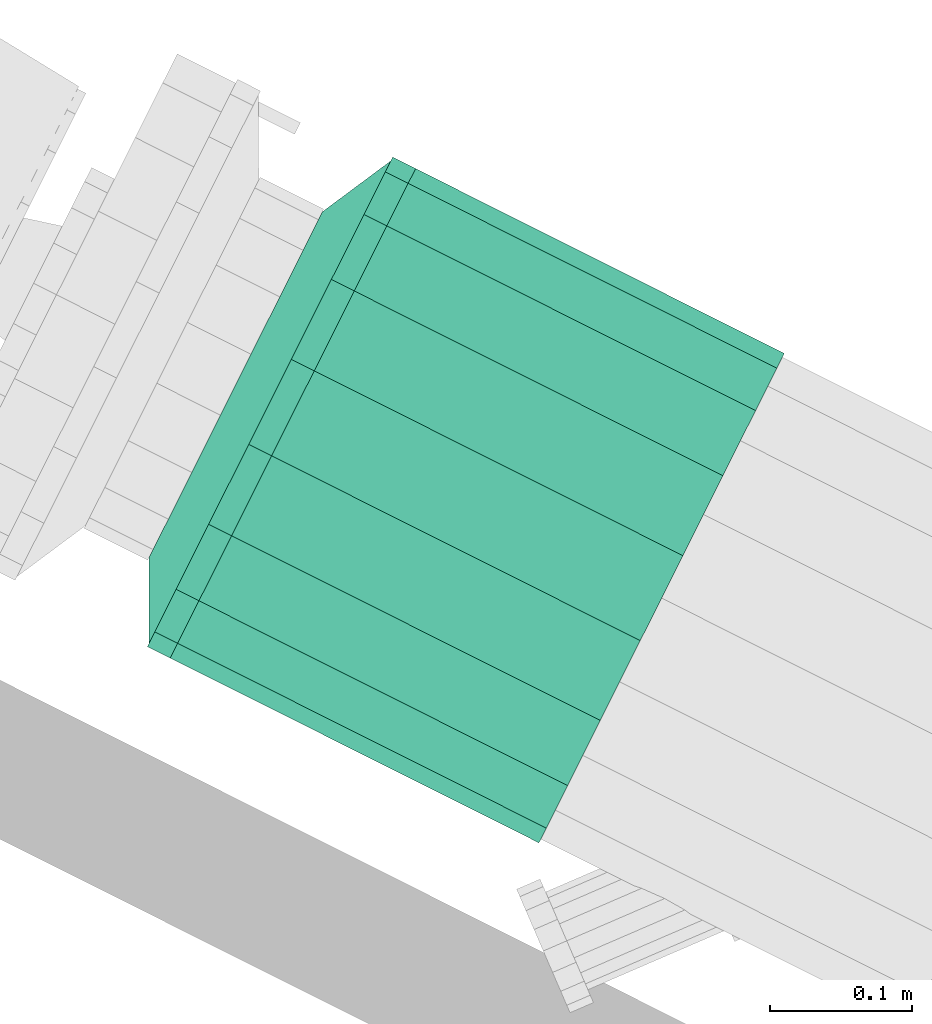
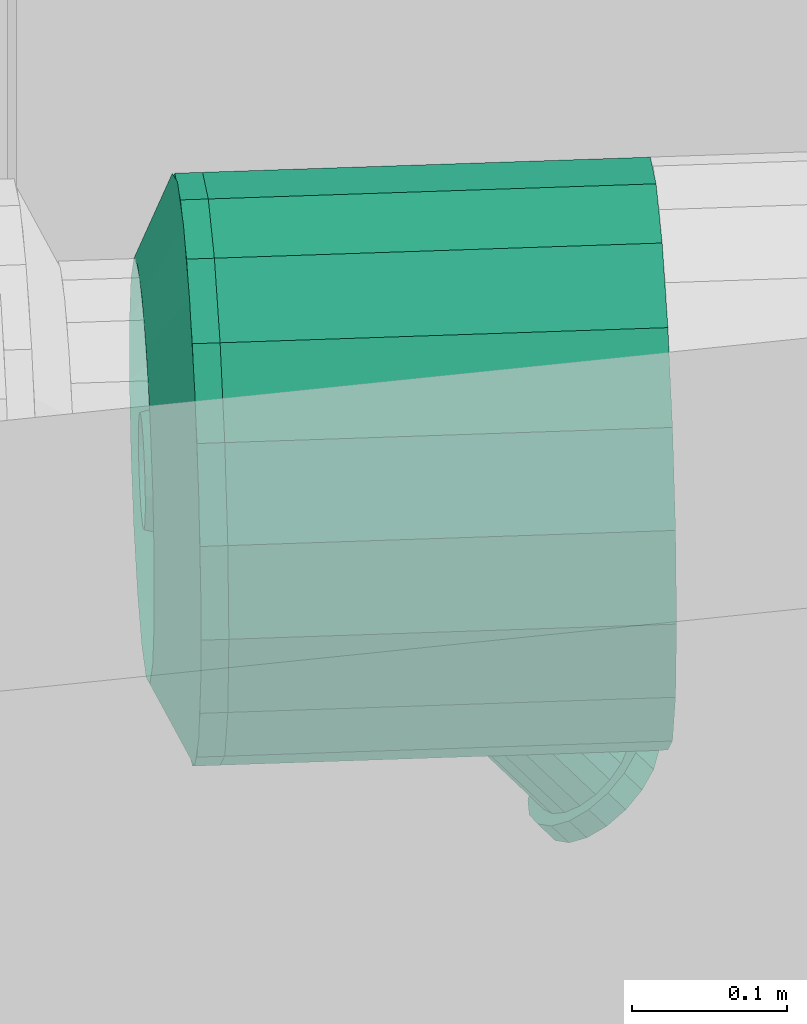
# One storey, part 152 of 206: 1 distribution control element, 1 flow fitting.
"""IFC2X3 building model written with IfcOpenShell, lengths in metres."""

from ifc_helpers import new_model, si_unit, derived_unit, direction, frame, origin, place, context, subcontext, project, spatial, face_set, surface_model, source, transform, mapped, material, type_object, type_shapes, element, save


model = new_model("IFC2X3")

# Units and contexts
model_context = context("Model", 3, precision=5.2338327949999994e-05, world=origin(), true_north=direction((0.0, 1.0)))
body_context = subcontext(model_context, "Body", "Model", "MODEL_VIEW")
ifc_project = project(units=[si_unit("LENGTHUNIT", "METRE"), si_unit("AREAUNIT", "SQUARE_METRE"), si_unit("VOLUMEUNIT", "CUBIC_METRE"), si_unit("MASSUNIT", "GRAM", prefix="KILO"), si_unit("PLANEANGLEUNIT", "RADIAN"), derived_unit("THERMALTRANSMITTANCEUNIT", [(si_unit("MASSUNIT", "GRAM", prefix="KILO"), 1), (si_unit("THERMODYNAMICTEMPERATUREUNIT", "KELVIN"), -1), (si_unit("TIMEUNIT", "SECOND"), -3)])], contexts=[model_context])

# Site, building, storey
site_placement = place(None, frame((0.0, 0.0, 0.0), z_axis=(0.0, 0.0, 1.0), x_axis=(0.8939966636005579, -0.4480736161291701, 0.0)))
site = spatial("IfcSite", under=ifc_project, at=site_placement, Name="Default", CompositionType="ELEMENT")
building_placement = place(site_placement, origin())
building = spatial("IfcBuilding", under=site, at=building_placement, CompositionType="ELEMENT")
storey_placement = place(building_placement, origin())
storey = spatial("IfcBuildingStorey", under=building, at=storey_placement, Name="Erdgeschoss", CompositionType="ELEMENT", Elevation=0.0)

# Distribution control element
ifc_material = material(Name="IfcSurfaceStyle #1741")
distribution_element_type_1 = type_object("IfcDistributionElementType", Name="Zählerpaßstück 334871:Zählerpaßstück 334871", material=ifc_material)
shared_shape_1 = source(origin(), body_context, "Body", "SurfaceModel", [
    surface_model("IfcFaceBasedSurfaceModel", [(29.481749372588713, 10.355158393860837, 2.0686747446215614), (29.46916014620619, 10.35805616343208, 2.0581111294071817), (29.48073032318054, 10.35805616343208, 2.044322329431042), (29.493319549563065, 10.355158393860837, 2.0548859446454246), (29.45808936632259, 10.366399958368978, 2.0488216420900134), (29.46965954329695, 10.366399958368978, 2.0350328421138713), (29.449872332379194, 10.37918339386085, 2.0419267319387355), (29.461442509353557, 10.37918339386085, 2.0281379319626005), (29.44550013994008, 10.394864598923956, 2.0382580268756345), (29.457070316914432, 10.39486459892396, 2.0244692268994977), (29.44550013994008, 10.411552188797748, 2.0382580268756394), (29.457070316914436, 10.411552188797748, 2.0244692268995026), (29.44987233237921, 10.427233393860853, 2.0419267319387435), (29.461442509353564, 10.42723339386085, 2.028137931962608), (29.458089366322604, 10.440016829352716, 2.0488216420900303), (29.469659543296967, 10.440016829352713, 2.0350328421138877), (29.469160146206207, 10.448360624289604, 2.0581111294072), (29.48073032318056, 10.448360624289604, 2.044322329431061), (29.481749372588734, 10.451258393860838, 2.068674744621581), (29.493319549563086, 10.451258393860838, 2.0548859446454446), (29.49433859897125, 10.448360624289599, 2.0792383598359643), (29.50590877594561, 10.448360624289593, 2.065449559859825), (29.50540937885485, 10.440016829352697, 2.088527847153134), (29.516979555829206, 10.440016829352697, 2.0747390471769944), (29.513626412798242, 10.427233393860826, 2.0954227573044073), (29.525196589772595, 10.427233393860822, 2.081633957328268), (29.517998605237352, 10.411552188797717, 2.0990914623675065), (29.529568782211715, 10.411552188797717, 2.0853026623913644), (29.51799860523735, 10.394864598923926, 2.099091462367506), (29.529568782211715, 10.394864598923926, 2.085302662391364), (29.513626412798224, 10.379183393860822, 2.095422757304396), (29.525196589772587, 10.379183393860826, 2.0816339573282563), (29.50540937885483, 10.36639995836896, 2.0885278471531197), (29.516979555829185, 10.36639995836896, 2.07473904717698), (29.49433859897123, 10.35805616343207, 2.079238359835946), (29.50590877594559, 10.35805616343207, 2.0654495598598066), (29.481749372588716, 10.403208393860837, 2.0686747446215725), (29.493319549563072, 10.403208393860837, 2.0548859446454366), (29.51089736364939, 10.403208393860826, 2.0931328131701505), (29.509139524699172, 10.416222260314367, 2.0916578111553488), (29.35257453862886, 10.416222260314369, 2.278244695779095), (29.357495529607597, 10.403208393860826, 2.2759499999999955), (29.504078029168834, 10.427666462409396, 2.0874107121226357), (29.338405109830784, 10.427666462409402, 2.2848520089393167), (29.49632336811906, 10.436160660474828, 2.0809037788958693), (29.316696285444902, 10.436160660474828, 2.2949749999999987), (29.48681086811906, 10.440680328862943, 2.072921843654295), (29.29006647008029, 10.440680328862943, 2.3073926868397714), (29.47668787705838, 10.440680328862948, 2.0644276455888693), (29.272816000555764, 10.440680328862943, 2.3073926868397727), (29.467175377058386, 10.436160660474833, 2.0564457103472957), (29.26702553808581, 10.436160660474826, 2.2949749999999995), (29.459420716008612, 10.427666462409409, 2.0499387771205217), (29.26230510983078, 10.427666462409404, 2.284852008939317), (29.45435922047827, 10.41622226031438, 2.045691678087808), (29.259224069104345, 10.416222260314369, 2.2782446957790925), (29.45260138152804, 10.403208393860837, 2.044216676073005), (29.258154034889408, 10.403208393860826, 2.2759499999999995), (29.454359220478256, 10.390194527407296, 2.045691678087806), (29.25922406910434, 10.390194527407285, 2.2782446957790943), (29.4594207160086, 10.378750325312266, 2.04993877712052), (29.26230510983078, 10.378750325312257, 2.2848520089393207), (29.467175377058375, 10.370256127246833, 2.056445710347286), (29.26702553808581, 10.370256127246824, 2.294974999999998), (29.476687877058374, 10.365736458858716, 2.06442764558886), (29.272816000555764, 10.365736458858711, 2.3073926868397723), (29.486810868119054, 10.365736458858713, 2.0729218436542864), (29.29006647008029, 10.365736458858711, 2.3073926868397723), (29.496323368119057, 10.370256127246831, 2.080903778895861), (29.31669628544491, 10.37025612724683, 2.294974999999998), (29.50407802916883, 10.378750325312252, 2.0874107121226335), (29.338405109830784, 10.378750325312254, 2.28485200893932), (29.509139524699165, 10.390194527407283, 2.0916578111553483), (29.35257453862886, 10.390194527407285, 2.278244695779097), (29.240127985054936, 10.31070839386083, 2.313999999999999), (29.240127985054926, 10.31628682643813, 2.2823631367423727), (29.25812798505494, 10.31628682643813, 2.282363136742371), (29.25812798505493, 10.31070839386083, 2.313999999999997), (29.240127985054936, 10.332349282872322, 2.254542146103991), (29.25812798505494, 10.332349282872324, 2.254542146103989), (29.240127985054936, 10.356958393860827, 2.2338926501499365), (29.25812798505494, 10.356958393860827, 2.2338926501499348), (29.24012798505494, 10.387145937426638, 2.22290528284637), (29.25812798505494, 10.387145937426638, 2.222905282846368), (29.24012798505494, 10.41927085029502, 2.2229052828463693), (29.25812798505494, 10.41927085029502, 2.222905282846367), (29.240127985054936, 10.449458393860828, 2.233892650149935), (29.25812798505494, 10.449458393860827, 2.233892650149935), (29.240127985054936, 10.474067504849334, 2.254542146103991), (29.258127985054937, 10.474067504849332, 2.254542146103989), (29.240127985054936, 10.490129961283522, 2.282363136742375), (29.258127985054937, 10.490129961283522, 2.2823631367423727), (29.240127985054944, 10.495708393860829, 2.314), (29.25812798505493, 10.495708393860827, 2.313999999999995), (29.24012798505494, 10.490129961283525, 2.345636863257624), (29.25812798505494, 10.49012996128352, 2.3456368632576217), (29.240127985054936, 10.474067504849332, 2.373457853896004), (29.25812798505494, 10.474067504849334, 2.3734578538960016), (29.240127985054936, 10.449458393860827, 2.3941073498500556), (29.25812798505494, 10.449458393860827, 2.3941073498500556), (29.240127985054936, 10.419270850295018, 2.40509471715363), (29.25812798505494, 10.419270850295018, 2.4050947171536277), (29.240127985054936, 10.387145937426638, 2.40509471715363), (29.25812798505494, 10.387145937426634, 2.4050947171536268), (29.240127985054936, 10.356958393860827, 2.3941073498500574), (29.25812798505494, 10.356958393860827, 2.394107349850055), (29.24012798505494, 10.332349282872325, 2.3734578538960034), (29.258127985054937, 10.332349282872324, 2.3734578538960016), (29.24012798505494, 10.316286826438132, 2.3456368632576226), (29.258127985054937, 10.31628682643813, 2.3456368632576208), (29.240127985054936, 10.403208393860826, 2.3139999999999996), (29.25812798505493, 10.403208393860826, 2.3139999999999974), (29.25812798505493, 10.365158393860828, 2.313999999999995), (29.25812798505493, 10.367453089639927, 2.300986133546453), (29.512127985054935, 10.367453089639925, 2.300986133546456), (29.512127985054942, 10.365158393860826, 2.3139999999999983), (29.25812798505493, 10.37406040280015, 2.2895419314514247), (29.512127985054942, 10.374060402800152, 2.289541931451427), (29.25812798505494, 10.384183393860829, 2.2810477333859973), (29.512127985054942, 10.38418339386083, 2.2810477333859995), (29.25812798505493, 10.3966010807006, 2.2765280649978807), (29.512127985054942, 10.396601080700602, 2.2765280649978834), (29.258127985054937, 10.409815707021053, 2.276528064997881), (29.51212798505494, 10.409815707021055, 2.2765280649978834), (29.25812798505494, 10.422233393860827, 2.281047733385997), (29.512127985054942, 10.422233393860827, 2.281047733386), (29.25812798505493, 10.432356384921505, 2.2895419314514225), (29.512127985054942, 10.432356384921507, 2.2895419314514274), (29.258127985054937, 10.438963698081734, 2.300986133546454), (29.51212798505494, 10.438963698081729, 2.3009861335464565), (29.258127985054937, 10.441258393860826, 2.313999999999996), (29.51212798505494, 10.441258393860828, 2.313999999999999), (29.258127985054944, 10.438963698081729, 2.3270138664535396), (29.51212798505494, 10.438963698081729, 2.327013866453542), (29.25812798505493, 10.432356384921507, 2.338458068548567), (29.512127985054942, 10.432356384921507, 2.3384580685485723), (29.25812798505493, 10.422233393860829, 2.3469522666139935), (29.512127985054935, 10.422233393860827, 2.346952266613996), (29.25812798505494, 10.40981570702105, 2.351471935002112), (29.512127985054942, 10.409815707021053, 2.3514719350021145), (29.25812798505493, 10.396601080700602, 2.3514719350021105), (29.512127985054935, 10.3966010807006, 2.3514719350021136), (29.258127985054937, 10.384183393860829, 2.346952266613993), (29.51212798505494, 10.384183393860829, 2.346952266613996), (29.25812798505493, 10.37406040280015, 2.3384580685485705), (29.512127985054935, 10.37406040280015, 2.338458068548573), (29.25812798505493, 10.367453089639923, 2.3270138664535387), (29.512127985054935, 10.367453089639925, 2.3270138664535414), (29.51212798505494, 10.310708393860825, 2.3139999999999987), (29.51212798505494, 10.316286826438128, 2.2823631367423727), (29.53012798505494, 10.31628682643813, 2.2823631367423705), (29.53012798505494, 10.310708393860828, 2.3139999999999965), (29.51212798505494, 10.332349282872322, 2.254542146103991), (29.53012798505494, 10.332349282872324, 2.254542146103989), (29.51212798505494, 10.356958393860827, 2.233892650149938), (29.53012798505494, 10.356958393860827, 2.2338926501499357), (29.51212798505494, 10.387145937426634, 2.2229052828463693), (29.53012798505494, 10.387145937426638, 2.222905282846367), (29.51212798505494, 10.41927085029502, 2.22290528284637), (29.53012798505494, 10.41927085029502, 2.2229052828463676), (29.51212798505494, 10.449458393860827, 2.233892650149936), (29.53012798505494, 10.449458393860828, 2.2338926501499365), (29.51212798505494, 10.474067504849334, 2.2545421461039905), (29.53012798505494, 10.474067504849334, 2.2545421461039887), (29.51212798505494, 10.490129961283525, 2.282363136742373), (29.53012798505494, 10.490129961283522, 2.282363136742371), (29.51212798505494, 10.495708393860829, 2.314), (29.53012798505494, 10.495708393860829, 2.313999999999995), (29.51212798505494, 10.49012996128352, 2.345636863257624), (29.53012798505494, 10.490129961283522, 2.3456368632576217), (29.51212798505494, 10.474067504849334, 2.373457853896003), (29.530127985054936, 10.474067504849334, 2.3734578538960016), (29.512127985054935, 10.449458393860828, 2.394107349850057), (29.53012798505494, 10.449458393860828, 2.394107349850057), (29.512127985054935, 10.41927085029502, 2.4050947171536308), (29.53012798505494, 10.419270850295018, 2.405094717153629), (29.51212798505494, 10.387145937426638, 2.4050947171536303), (29.53012798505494, 10.387145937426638, 2.405094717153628), (29.51212798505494, 10.356958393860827, 2.394107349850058), (29.53012798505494, 10.356958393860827, 2.3941073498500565), (29.51212798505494, 10.332349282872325, 2.3734578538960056), (29.530127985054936, 10.332349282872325, 2.373457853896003), (29.51212798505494, 10.316286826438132, 2.3456368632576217), (29.53012798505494, 10.316286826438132, 2.3456368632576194), (29.51212798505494, 10.403208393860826, 2.314), (29.530127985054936, 10.403208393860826, 2.313999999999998), (29.240127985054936, 10.210708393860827, 2.313999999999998), (29.240127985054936, 10.222317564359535, 2.248161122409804), (29.53012798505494, 10.222317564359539, 2.248161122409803), (29.53012798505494, 10.210708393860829, 2.313999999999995), (29.240127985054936, 10.255744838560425, 2.190263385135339), (29.53012798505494, 10.255744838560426, 2.1902633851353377), (29.240127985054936, 10.306958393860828, 2.147290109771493), (29.53012798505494, 10.306958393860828, 2.1472901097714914), (29.240127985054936, 10.369781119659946, 2.1244245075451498), (29.53012798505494, 10.369781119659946, 2.124424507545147), (29.24012798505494, 10.436635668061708, 2.1244245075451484), (29.530127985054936, 10.436635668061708, 2.1244245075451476), (29.240127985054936, 10.499458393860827, 2.147290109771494), (29.53012798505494, 10.499458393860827, 2.1472901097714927), (29.240127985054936, 10.55067194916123, 2.1902633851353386), (29.53012798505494, 10.55067194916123, 2.1902633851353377), (29.24012798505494, 10.584099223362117, 2.248161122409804), (29.53012798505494, 10.584099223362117, 2.2481611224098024), (29.24012798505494, 10.595708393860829, 2.3139999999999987), (29.53012798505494, 10.595708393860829, 2.3139999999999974), (29.24012798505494, 10.584099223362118, 2.3798388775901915), (29.53012798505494, 10.58409922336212, 2.3798388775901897), (29.24012798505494, 10.55067194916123, 2.437736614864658), (29.53012798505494, 10.55067194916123, 2.4377366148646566), (29.24012798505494, 10.499458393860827, 2.4807098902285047), (29.53012798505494, 10.499458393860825, 2.4807098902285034), (29.24012798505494, 10.43663566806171, 2.5035754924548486), (29.53012798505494, 10.43663566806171, 2.5035754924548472), (29.24012798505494, 10.369781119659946, 2.5035754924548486), (29.53012798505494, 10.369781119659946, 2.503575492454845), (29.240127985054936, 10.306958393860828, 2.4807098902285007), (29.53012798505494, 10.306958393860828, 2.4807098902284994), (29.240127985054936, 10.255744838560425, 2.4377366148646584), (29.53012798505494, 10.255744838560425, 2.437736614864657), (29.24012798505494, 10.22231756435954, 2.379838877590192), (29.530127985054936, 10.22231756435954, 2.37983887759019)], [face_set([[[0, 1, 2, 3]], [[1, 4, 5, 2]], [[4, 6, 7, 5]], [[6, 8, 9, 7]], [[8, 10, 11, 9]], [[10, 12, 13, 11]], [[12, 14, 15, 13]], [[14, 16, 17, 15]], [[16, 18, 19, 17]], [[18, 20, 21, 19]], [[20, 22, 23, 21]], [[22, 24, 25, 23]], [[24, 26, 27, 25]], [[26, 28, 29, 27]], [[28, 30, 31, 29]], [[30, 32, 33, 31]], [[32, 34, 35, 33]], [[34, 0, 3, 35]], [[36, 1, 0]], [[36, 4, 1]], [[36, 6, 4]], [[36, 8, 6]], [[36, 10, 8]], [[36, 12, 10]], [[36, 14, 12]], [[36, 16, 14]], [[36, 18, 16]], [[36, 20, 18]], [[36, 22, 20]], [[36, 24, 22]], [[36, 26, 24]], [[36, 28, 26]], [[36, 30, 28]], [[36, 32, 30]], [[36, 34, 32]], [[36, 0, 34]], [[37, 35, 3]], [[37, 33, 35]], [[37, 31, 33]], [[37, 29, 31]], [[37, 27, 29]], [[37, 25, 27]], [[37, 23, 25]], [[37, 21, 23]], [[37, 19, 21]], [[37, 17, 19]], [[37, 15, 17]], [[37, 13, 15]], [[37, 11, 13]], [[37, 9, 11]], [[37, 7, 9]], [[37, 5, 7]], [[37, 2, 5]], [[37, 3, 2]], [[38, 39, 40, 41]], [[39, 42, 43, 40]], [[42, 44, 45, 43]], [[44, 46, 47, 45]], [[46, 48, 49, 47]], [[48, 50, 51, 49]], [[50, 52, 53, 51]], [[52, 54, 55, 53]], [[54, 56, 57, 55]], [[56, 58, 59, 57]], [[58, 60, 61, 59]], [[60, 62, 63, 61]], [[62, 64, 65, 63]], [[64, 66, 67, 65]], [[66, 68, 69, 67]], [[68, 70, 71, 69]], [[70, 72, 73, 71]], [[72, 38, 41, 73]], [[74, 75, 76, 77]], [[75, 78, 79, 76]], [[78, 80, 81, 79]], [[80, 82, 83, 81]], [[82, 84, 85, 83]], [[84, 86, 87, 85]], [[86, 88, 89, 87]], [[88, 90, 91, 89]], [[90, 92, 93, 91]], [[92, 94, 95, 93]], [[94, 96, 97, 95]], [[96, 98, 99, 97]], [[98, 100, 101, 99]], [[100, 102, 103, 101]], [[102, 104, 105, 103]], [[104, 106, 107, 105]], [[106, 108, 109, 107]], [[108, 74, 77, 109]], [[110, 75, 74]], [[110, 78, 75]], [[110, 80, 78]], [[110, 82, 80]], [[110, 84, 82]], [[110, 86, 84]], [[110, 88, 86]], [[110, 90, 88]], [[110, 92, 90]], [[110, 94, 92]], [[110, 96, 94]], [[110, 98, 96]], [[110, 100, 98]], [[110, 102, 100]], [[110, 104, 102]], [[110, 106, 104]], [[110, 108, 106]], [[110, 74, 108]], [[111, 109, 77]], [[111, 107, 109]], [[111, 105, 107]], [[111, 103, 105]], [[111, 101, 103]], [[111, 99, 101]], [[111, 97, 99]], [[111, 95, 97]], [[111, 93, 95]], [[111, 91, 93]], [[111, 89, 91]], [[111, 87, 89]], [[111, 85, 87]], [[111, 83, 85]], [[111, 81, 83]], [[111, 79, 81]], [[111, 76, 79]], [[111, 77, 76]], [[112, 113, 114, 115]], [[113, 116, 117, 114]], [[116, 118, 119, 117]], [[118, 120, 121, 119]], [[120, 122, 123, 121]], [[122, 124, 125, 123]], [[124, 126, 127, 125]], [[126, 128, 129, 127]], [[128, 130, 131, 129]], [[130, 132, 133, 131]], [[132, 134, 135, 133]], [[134, 136, 137, 135]], [[136, 138, 139, 137]], [[138, 140, 141, 139]], [[140, 142, 143, 141]], [[142, 144, 145, 143]], [[144, 146, 147, 145]], [[146, 112, 115, 147]], [[148, 149, 150, 151]], [[149, 152, 153, 150]], [[152, 154, 155, 153]], [[154, 156, 157, 155]], [[156, 158, 159, 157]], [[158, 160, 161, 159]], [[160, 162, 163, 161]], [[162, 164, 165, 163]], [[164, 166, 167, 165]], [[166, 168, 169, 167]], [[168, 170, 171, 169]], [[170, 172, 173, 171]], [[172, 174, 175, 173]], [[174, 176, 177, 175]], [[176, 178, 179, 177]], [[178, 180, 181, 179]], [[180, 182, 183, 181]], [[182, 148, 151, 183]], [[184, 149, 148]], [[184, 152, 149]], [[184, 154, 152]], [[184, 156, 154]], [[184, 158, 156]], [[184, 160, 158]], [[184, 162, 160]], [[184, 164, 162]], [[184, 166, 164]], [[184, 168, 166]], [[184, 170, 168]], [[184, 172, 170]], [[184, 174, 172]], [[184, 176, 174]], [[184, 178, 176]], [[184, 180, 178]], [[184, 182, 180]], [[184, 148, 182]], [[185, 183, 151]], [[185, 181, 183]], [[185, 179, 181]], [[185, 177, 179]], [[185, 175, 177]], [[185, 173, 175]], [[185, 171, 173]], [[185, 169, 171]], [[185, 167, 169]], [[185, 165, 167]], [[185, 163, 165]], [[185, 161, 163]], [[185, 159, 161]], [[185, 157, 159]], [[185, 155, 157]], [[185, 153, 155]], [[185, 150, 153]], [[185, 151, 150]], [[186, 187, 188, 189]], [[187, 190, 191, 188]], [[190, 192, 193, 191]], [[192, 194, 195, 193]], [[194, 196, 197, 195]], [[196, 198, 199, 197]], [[198, 200, 201, 199]], [[200, 202, 203, 201]], [[202, 204, 205, 203]], [[204, 206, 207, 205]], [[206, 208, 209, 207]], [[208, 210, 211, 209]], [[210, 212, 213, 211]], [[212, 214, 215, 213]], [[214, 216, 217, 215]], [[216, 218, 219, 217]], [[218, 220, 221, 219]], [[220, 186, 189, 221]]])]),
])
type_shapes(distribution_element_type_1, [shared_shape_1])
distribution_control_element_placement = place(storey_placement, origin())
element("IfcDistributionControlElement", 1, at=distribution_control_element_placement, inside=storey, type_object=distribution_element_type_1, material=ifc_material, Name="Zählerpaßstück", ObjectType="Zählerpaßstück", context=body_context, shape_type="MappedRepresentation", body=[
    mapped(shared_shape_1, transform((0.0, 0.0, 0.0), scale=1.0)),
])

# Flow fitting
distribution_element_type_2 = type_object("IfcDistributionElementType", Name="Flansch 336047:Flansch 336047", material=ifc_material)
shared_shape_2 = source(origin(), body_context, "Body", "SurfaceModel", [
    surface_model("IfcFaceBasedSurfaceModel", [(29.24012798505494, 10.310708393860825, 2.314), (29.24012798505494, 10.31628682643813, 2.3456368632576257), (29.22212798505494, 10.31628682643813, 2.3456368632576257), (29.22212798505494, 10.310708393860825, 2.314), (29.24012798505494, 10.332349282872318, 2.373457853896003), (29.22212798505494, 10.332349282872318, 2.373457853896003), (29.24012798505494, 10.356958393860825, 2.3941073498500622), (29.22212798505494, 10.356958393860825, 2.3941073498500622), (29.24012798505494, 10.387145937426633, 2.4050947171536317), (29.22212798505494, 10.387145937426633, 2.4050947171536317), (29.24012798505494, 10.419270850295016, 2.4050947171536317), (29.22212798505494, 10.419270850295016, 2.4050947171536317), (29.24012798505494, 10.449458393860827, 2.394107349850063), (29.22212798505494, 10.449458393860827, 2.394107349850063), (29.24012798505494, 10.474067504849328, 2.3734578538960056), (29.22212798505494, 10.474067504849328, 2.3734578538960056), (29.24012798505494, 10.490129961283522, 2.3456368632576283), (29.22212798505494, 10.490129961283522, 2.3456368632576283), (29.24012798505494, 10.495708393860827, 2.314000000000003), (29.22212798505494, 10.495708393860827, 2.314000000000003), (29.24012798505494, 10.490129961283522, 2.2823631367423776), (29.22212798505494, 10.490129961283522, 2.2823631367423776), (29.24012798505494, 10.474067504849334, 2.254542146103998), (29.22212798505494, 10.474067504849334, 2.254542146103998), (29.24012798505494, 10.449458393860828, 2.23389265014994), (29.22212798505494, 10.449458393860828, 2.23389265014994), (29.24012798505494, 10.41927085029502, 2.2229052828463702), (29.22212798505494, 10.41927085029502, 2.2229052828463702), (29.24012798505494, 10.387145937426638, 2.222905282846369), (29.22212798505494, 10.387145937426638, 2.222905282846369), (29.24012798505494, 10.356958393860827, 2.23389265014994), (29.22212798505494, 10.356958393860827, 2.23389265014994), (29.24012798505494, 10.332349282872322, 2.2545421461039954), (29.22212798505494, 10.332349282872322, 2.2545421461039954), (29.24012798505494, 10.316286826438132, 2.2823631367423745), (29.22212798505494, 10.316286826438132, 2.2823631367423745), (29.222127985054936, 10.403208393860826, 2.3140000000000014), (29.22212798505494, 10.403208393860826, 2.3590000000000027), (29.22212798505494, 10.418599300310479, 2.3562861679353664), (29.19512798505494, 10.416222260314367, 2.3497553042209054), (29.19512798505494, 10.403208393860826, 2.3520500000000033), (29.22212798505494, 10.432133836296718, 2.348471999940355), (29.19512798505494, 10.4276664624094, 2.343147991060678), (29.22212798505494, 10.442179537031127, 2.336500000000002), (29.19512798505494, 10.436160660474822, 2.3330250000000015), (29.22212798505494, 10.447524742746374, 2.321814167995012), (29.19512798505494, 10.44068032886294, 2.3206073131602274), (29.22212798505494, 10.447524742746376, 2.3061858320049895), (29.19512798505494, 10.44068032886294, 2.307392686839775), (29.22212798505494, 10.442179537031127, 2.291499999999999), (29.19512798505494, 10.436160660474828, 2.2949750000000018), (29.22212798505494, 10.43213383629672, 2.2795280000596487), (29.19512798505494, 10.427666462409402, 2.284852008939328), (29.22212798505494, 10.418599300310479, 2.271713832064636), (29.19512798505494, 10.416222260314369, 2.278244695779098), (29.22212798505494, 10.403208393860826, 2.2690000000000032), (29.19512798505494, 10.403208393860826, 2.2759500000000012), (29.22212798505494, 10.387817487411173, 2.2717138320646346), (29.19512798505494, 10.390194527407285, 2.278244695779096), (29.22212798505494, 10.374282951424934, 2.2795280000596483), (29.19512798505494, 10.378750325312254, 2.2848520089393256), (29.22212798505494, 10.364237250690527, 2.291499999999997), (29.19512798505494, 10.37025612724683, 2.294975), (29.22212798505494, 10.358892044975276, 2.3061858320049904), (29.19512798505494, 10.365736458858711, 2.307392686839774), (29.22212798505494, 10.358892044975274, 2.321814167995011), (29.19512798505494, 10.365736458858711, 2.3206073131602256), (29.22212798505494, 10.364237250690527, 2.336499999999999), (29.19512798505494, 10.37025612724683, 2.333025), (29.22212798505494, 10.374282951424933, 2.348471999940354), (29.19512798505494, 10.378750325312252, 2.3431479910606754), (29.22212798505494, 10.387817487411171, 2.3562861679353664), (29.19512798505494, 10.390194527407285, 2.3497553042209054), (29.24012798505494, 10.210708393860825, 2.313999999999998), (29.24012798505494, 10.222317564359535, 2.3798388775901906), (29.22212798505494, 10.222317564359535, 2.3798388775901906), (29.22212798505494, 10.210708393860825, 2.313999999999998), (29.24012798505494, 10.255744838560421, 2.4377366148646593), (29.22212798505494, 10.255744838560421, 2.4377366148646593), (29.24012798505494, 10.306958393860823, 2.4807098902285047), (29.22212798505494, 10.306958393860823, 2.4807098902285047), (29.24012798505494, 10.369781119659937, 2.5035754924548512), (29.22212798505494, 10.369781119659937, 2.5035754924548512), (29.24012798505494, 10.436635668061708, 2.503575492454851), (29.22212798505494, 10.436635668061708, 2.503575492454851), (29.24012798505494, 10.499458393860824, 2.480709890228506), (29.22212798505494, 10.499458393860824, 2.480709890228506), (29.24012798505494, 10.550671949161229, 2.4377366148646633), (29.22212798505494, 10.550671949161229, 2.4377366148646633), (29.24012798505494, 10.584099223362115, 2.379838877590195), (29.22212798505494, 10.584099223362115, 2.379838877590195), (29.24012798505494, 10.595708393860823, 2.314000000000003), (29.22212798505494, 10.595708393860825, 2.314000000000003), (29.24012798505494, 10.584099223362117, 2.2481611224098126), (29.22212798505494, 10.584099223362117, 2.2481611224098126), (29.24012798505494, 10.550671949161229, 2.190263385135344), (29.22212798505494, 10.550671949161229, 2.190263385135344), (29.24012798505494, 10.499458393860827, 2.1472901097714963), (29.22212798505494, 10.499458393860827, 2.1472901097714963), (29.24012798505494, 10.436635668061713, 2.124424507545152), (29.22212798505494, 10.436635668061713, 2.124424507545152), (29.24012798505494, 10.369781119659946, 2.1244245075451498), (29.22212798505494, 10.369781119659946, 2.1244245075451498), (29.24012798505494, 10.306958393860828, 2.147290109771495), (29.22212798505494, 10.306958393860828, 2.147290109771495), (29.24012798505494, 10.255744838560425, 2.190263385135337), (29.22212798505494, 10.255744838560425, 2.190263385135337), (29.24012798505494, 10.222317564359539, 2.2481611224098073), (29.22212798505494, 10.222317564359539, 2.2481611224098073), (29.22212798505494, 10.403208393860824, 2.506500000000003), (29.22212798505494, 10.469047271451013, 2.494890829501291), (29.19512798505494, 10.450424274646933, 2.4437245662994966), (29.19512798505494, 10.403208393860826, 2.452050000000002), (29.22212798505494, 10.526945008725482, 2.4614635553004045), (29.19512798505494, 10.491945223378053, 2.4197524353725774), (29.22212798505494, 10.56991828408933, 2.410250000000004), (29.19512798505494, 10.522763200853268, 2.383025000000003), (29.22212798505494, 10.592783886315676, 2.3474272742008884), (29.19512798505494, 10.53916110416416, 2.337972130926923), (29.22212798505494, 10.592783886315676, 2.2805727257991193), (29.19512798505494, 10.539161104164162, 2.290027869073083), (29.22212798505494, 10.569918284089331, 2.2177500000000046), (29.19512798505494, 10.522763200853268, 2.244975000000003), (29.22212798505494, 10.526945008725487, 2.1665364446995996), (29.19512798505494, 10.491945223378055, 2.2082475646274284), (29.22212798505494, 10.469047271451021, 2.133109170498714), (29.19512798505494, 10.450424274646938, 2.1842754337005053), (29.22212798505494, 10.403208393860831, 2.1215000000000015), (29.19512798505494, 10.403208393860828, 2.175950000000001), (29.22212798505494, 10.33736951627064, 2.1331091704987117), (29.19512798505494, 10.35599251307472, 2.1842754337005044), (29.22212798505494, 10.27947177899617, 2.166536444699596), (29.19512798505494, 10.314471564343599, 2.208247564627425), (29.22212798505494, 10.236498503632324, 2.2177499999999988), (29.19512798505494, 10.283653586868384, 2.2449749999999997), (29.22212798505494, 10.213632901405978, 2.280572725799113), (29.19512798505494, 10.267255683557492, 2.290027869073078), (29.22212798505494, 10.213632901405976, 2.3474272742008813), (29.19512798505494, 10.26725568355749, 2.337972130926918), (29.22212798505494, 10.23649850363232, 2.4102499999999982), (29.19512798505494, 10.283653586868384, 2.3830250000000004), (29.22212798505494, 10.279471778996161, 2.461463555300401), (29.19512798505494, 10.314471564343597, 2.4197524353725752), (29.22212798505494, 10.337369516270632, 2.4948908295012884), (29.19512798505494, 10.355992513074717, 2.4437245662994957)], [face_set([[[0, 1, 2, 3]], [[1, 4, 5, 2]], [[4, 6, 7, 5]], [[6, 8, 9, 7]], [[8, 10, 11, 9]], [[10, 12, 13, 11]], [[12, 14, 15, 13]], [[14, 16, 17, 15]], [[16, 18, 19, 17]], [[18, 20, 21, 19]], [[20, 22, 23, 21]], [[22, 24, 25, 23]], [[24, 26, 27, 25]], [[26, 28, 29, 27]], [[28, 30, 31, 29]], [[30, 32, 33, 31]], [[32, 34, 35, 33]], [[34, 0, 3, 35]], [[36, 35, 3]], [[36, 33, 35]], [[36, 31, 33]], [[36, 29, 31]], [[36, 27, 29]], [[36, 25, 27]], [[36, 23, 25]], [[36, 21, 23]], [[36, 19, 21]], [[36, 17, 19]], [[36, 15, 17]], [[36, 13, 15]], [[36, 11, 13]], [[36, 9, 11]], [[36, 7, 9]], [[36, 5, 7]], [[36, 2, 5]], [[36, 3, 2]], [[37, 38, 39, 40]], [[38, 41, 42, 39]], [[41, 43, 44, 42]], [[43, 45, 46, 44]], [[45, 47, 48, 46]], [[47, 49, 50, 48]], [[49, 51, 52, 50]], [[51, 53, 54, 52]], [[53, 55, 56, 54]], [[55, 57, 58, 56]], [[57, 59, 60, 58]], [[59, 61, 62, 60]], [[61, 63, 64, 62]], [[63, 65, 66, 64]], [[65, 67, 68, 66]], [[67, 69, 70, 68]], [[69, 71, 72, 70]], [[71, 37, 40, 72]], [[73, 74, 75, 76]], [[74, 77, 78, 75]], [[77, 79, 80, 78]], [[79, 81, 82, 80]], [[81, 83, 84, 82]], [[83, 85, 86, 84]], [[85, 87, 88, 86]], [[87, 89, 90, 88]], [[89, 91, 92, 90]], [[91, 93, 94, 92]], [[93, 95, 96, 94]], [[95, 97, 98, 96]], [[97, 99, 100, 98]], [[99, 101, 102, 100]], [[101, 103, 104, 102]], [[103, 105, 106, 104]], [[105, 107, 108, 106]], [[107, 73, 76, 108]], [[109, 110, 111, 112]], [[110, 113, 114, 111]], [[113, 115, 116, 114]], [[115, 117, 118, 116]], [[117, 119, 120, 118]], [[119, 121, 122, 120]], [[121, 123, 124, 122]], [[123, 125, 126, 124]], [[125, 127, 128, 126]], [[127, 129, 130, 128]], [[129, 131, 132, 130]], [[131, 133, 134, 132]], [[133, 135, 136, 134]], [[135, 137, 138, 136]], [[137, 139, 140, 138]], [[139, 141, 142, 140]], [[141, 143, 144, 142]], [[143, 109, 112, 144]]])]),
])
type_shapes(distribution_element_type_2, [shared_shape_2])
flow_fitting_placement = place(storey_placement, origin())
element("IfcFlowFitting", 2, at=flow_fitting_placement, inside=storey, type_object=distribution_element_type_2, material=ifc_material, Name="Flansch", ObjectType="Flansch", context=body_context, shape_type="MappedRepresentation", body=[
    mapped(shared_shape_2, transform((0.0, 0.0, 0.0), scale=1.0)),
])

save(model, "model.ifc")
